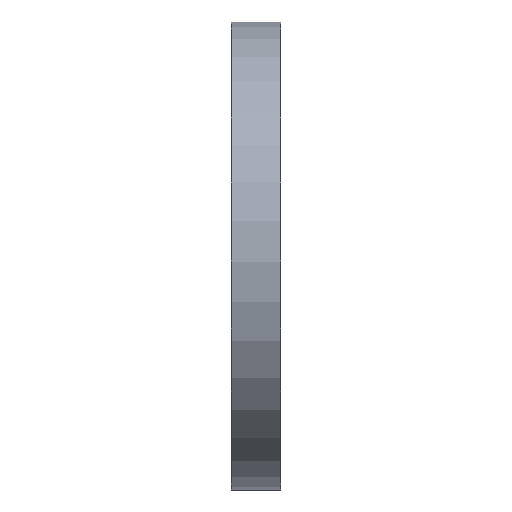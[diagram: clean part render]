
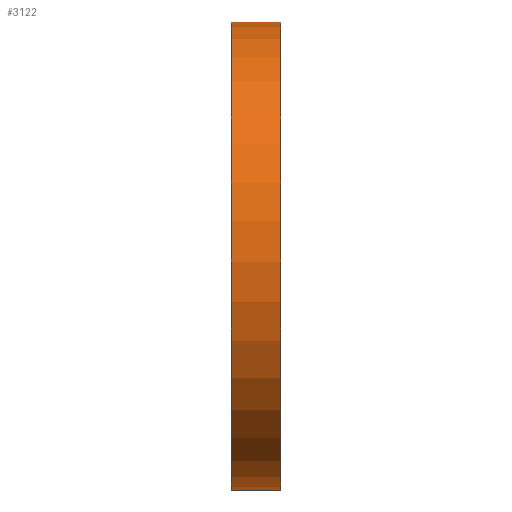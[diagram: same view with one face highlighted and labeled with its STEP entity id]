
A CAD part, left-side view. The second image highlights one B-rep face of the part: STEP entity #3122.
In plain terms, the highlighted cylindrical face has radius 9.5 mm (diameter 19 mm), a partial arc.
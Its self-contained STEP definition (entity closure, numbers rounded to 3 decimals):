
#723=DIRECTION('',(0.,1.,0.));
#724=VECTOR('',#723,2.);
#725=CARTESIAN_POINT('',(10.156,0.,3.6));
#726=LINE('',#725,#724);
#727=CARTESIAN_POINT('',(1.365,0.,0.));
#728=DIRECTION('',(0.,-1.,0.));
#729=DIRECTION('',(0.925,0.,0.379));
#730=AXIS2_PLACEMENT_3D('',#727,#728,#729);
#732=DIRECTION('',(0.,1.,0.));
#733=VECTOR('',#732,2.);
#734=CARTESIAN_POINT('',(10.864,0.,0.1));
#735=LINE('',#734,#733);
#753=CARTESIAN_POINT('',(1.365,2.,0.));
#754=DIRECTION('',(0.,-1.,0.));
#755=DIRECTION('',(0.925,0.,0.379));
#756=AXIS2_PLACEMENT_3D('',#753,#754,#755);
#2658=CARTESIAN_POINT('',(10.156,0.,3.6));
#2659=CARTESIAN_POINT('',(10.156,2.,3.6));
#2660=VERTEX_POINT('',#2658);
#2661=VERTEX_POINT('',#2659);
#2662=CARTESIAN_POINT('',(10.864,0.,0.1));
#2663=CARTESIAN_POINT('',(10.864,2.,0.1));
#2664=VERTEX_POINT('',#2662);
#2665=VERTEX_POINT('',#2663);
#3108=CARTESIAN_POINT('',(1.365,-10.,0.));
#3109=DIRECTION('',(0.,1.,0.));
#3110=DIRECTION('',(1.,0.,0.));
#3111=AXIS2_PLACEMENT_3D('',#3108,#3109,#3110);
#3112=CYLINDRICAL_SURFACE('',#3111,9.5);
#3114=ORIENTED_EDGE('',*,*,#3113,.F.);
#3116=ORIENTED_EDGE('',*,*,#3115,.F.);
#3117=ORIENTED_EDGE('',*,*,#2715,.T.);
#3119=ORIENTED_EDGE('',*,*,#3118,.T.);
#3120=EDGE_LOOP('',(#3114,#3116,#3117,#3119));
#3121=FACE_OUTER_BOUND('',#3120,.F.);
#3122=ADVANCED_FACE('',(#3121),#3112,.T.);
#731=CIRCLE('',#730,9.5);
#757=CIRCLE('',#756,9.5);
#2715=EDGE_CURVE('',#2660,#2664,#731,.T.);
#3113=EDGE_CURVE('',#2661,#2665,#757,.T.);
#3115=EDGE_CURVE('',#2660,#2661,#726,.T.);
#3118=EDGE_CURVE('',#2664,#2665,#735,.T.);
